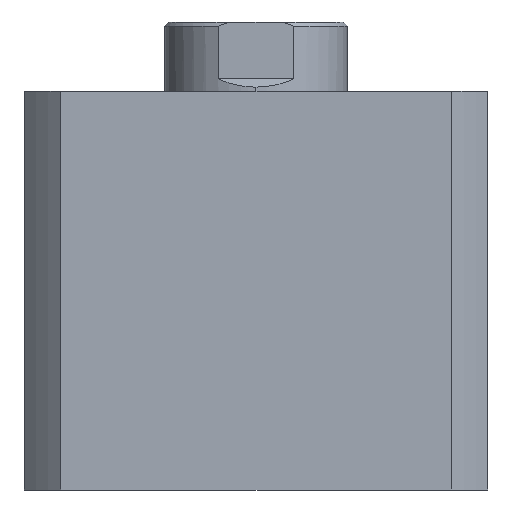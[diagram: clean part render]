
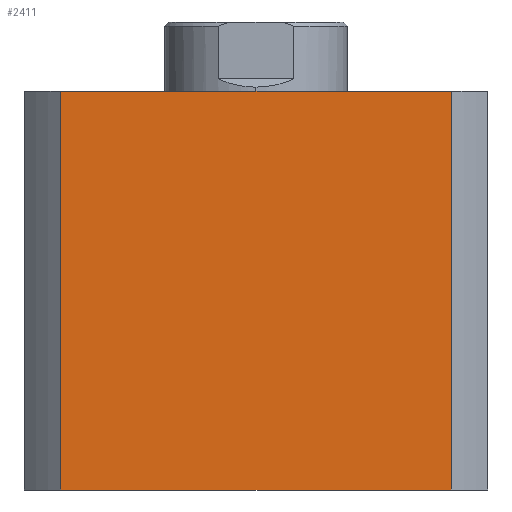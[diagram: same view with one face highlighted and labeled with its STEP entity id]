
A CAD part, left-side view. The second image highlights one B-rep face of the part: STEP entity #2411.
In plain terms, the highlighted planar face has unit normal (-1, 0, 0).
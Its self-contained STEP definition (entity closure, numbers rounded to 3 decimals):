
#197 = CARTESIAN_POINT ( 'NONE',  ( -57., -47.971, 98. ) ) ;
#229 = DIRECTION ( 'NONE',  ( 0., 0., -1. ) ) ;
#233 = CARTESIAN_POINT ( 'NONE',  ( -57., -47.971, 98. ) ) ;
#511 = CARTESIAN_POINT ( 'NONE',  ( -57., 47.971, 98. ) ) ;
#542 = CARTESIAN_POINT ( 'NONE',  ( -57., -47.971, 0. ) ) ;
#557 = CARTESIAN_POINT ( 'NONE',  ( -57., 47.971, 0. ) ) ;
#561 = CARTESIAN_POINT ( 'NONE',  ( -57., 0., 98. ) ) ;
#607 = DIRECTION ( 'NONE',  ( 0., 0., -1. ) ) ;
#613 = CARTESIAN_POINT ( 'NONE',  ( -57., 47.971, 98. ) ) ;
#616 = DIRECTION ( 'NONE',  ( 0., -1., 0. ) ) ;
#1143 = VERTEX_POINT ( 'NONE', #557 ) ;
#1148 = VERTEX_POINT ( 'NONE', #542 ) ;
#1269 = VERTEX_POINT ( 'NONE', #511 ) ;
#1385 = VERTEX_POINT ( 'NONE', #197 ) ;
#1667 = EDGE_CURVE ( 'NONE', #1269, #1143, #2178, .T. ) ;
#1672 = EDGE_CURVE ( 'NONE', #1269, #1385, #2179, .T. ) ;
#1713 = EDGE_CURVE ( 'NONE', #1385, #1148, #2241, .T. ) ;
#1876 = EDGE_CURVE ( 'NONE', #1143, #1148, #4681, .T. ) ;
#2046 = EDGE_LOOP ( 'NONE', ( #3071, #3070, #3069, #3068 ) ) ;
#2178 = LINE ( 'NONE', #613, #2182 ) ;
#2179 = LINE ( 'NONE', #561, #2186 ) ;
#2182 = VECTOR ( 'NONE', #607, 1000. ) ;
#2186 = VECTOR ( 'NONE', #616, 1000. ) ;
#2241 = LINE ( 'NONE', #233, #2244 ) ;
#2244 = VECTOR ( 'NONE', #229, 1000. ) ;
#2411 = ADVANCED_FACE ( 'NONE', ( #4860 ), #4180, .F. ) ;
#3068 = ORIENTED_EDGE ( 'NONE', *, *, #1667, .T. ) ;
#3069 = ORIENTED_EDGE ( 'NONE', *, *, #1672, .F. ) ;
#3070 = ORIENTED_EDGE ( 'NONE', *, *, #1713, .F. ) ;
#3071 = ORIENTED_EDGE ( 'NONE', *, *, #1876, .T. ) ;
#3309 = AXIS2_PLACEMENT_3D ( 'NONE', #4187, #4177, #4176 ) ;
#3977 = DIRECTION ( 'NONE',  ( 0., -1., 0. ) ) ;
#3978 = CARTESIAN_POINT ( 'NONE',  ( -57., 0., 0. ) ) ;
#4176 = DIRECTION ( 'NONE',  ( 0., 0., -1. ) ) ;
#4177 = DIRECTION ( 'NONE',  ( 1., 0., 0. ) ) ;
#4180 = PLANE ( 'NONE',  #3309 ) ;
#4187 = CARTESIAN_POINT ( 'NONE',  ( -57., 0., 98. ) ) ;
#4681 = LINE ( 'NONE', #3978, #4683 ) ;
#4683 = VECTOR ( 'NONE', #3977, 1000. ) ;
#4860 = FACE_OUTER_BOUND ( 'NONE', #2046, .T. ) ;
